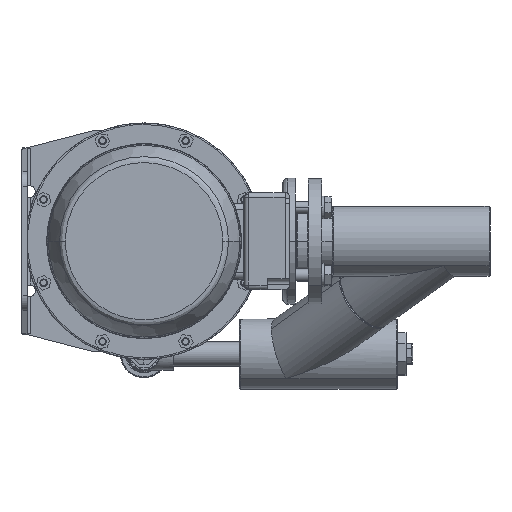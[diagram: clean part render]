
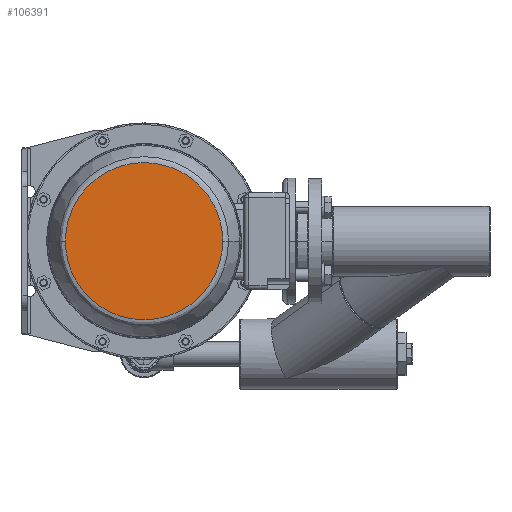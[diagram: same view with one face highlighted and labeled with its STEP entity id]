
A CAD part, front view. The second image highlights one B-rep face of the part: STEP entity #106391.
In plain terms, the highlighted planar face has unit normal (0, -1, 0).
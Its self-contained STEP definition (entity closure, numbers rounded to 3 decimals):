
#3239 = VERTEX_POINT ( 'NONE', #45671 ) ;
#3694 = VERTEX_POINT ( 'NONE', #45882 ) ;
#4487 = EDGE_CURVE ( 'NONE', #3694, #3239, #46259, .T. ) ;
#6788 = CARTESIAN_POINT ( 'NONE',  ( -6.478, -770.387, 173. ) ) ;
#6795 = PLANE ( 'NONE',  #6834 ) ;
#6833 = DIRECTION ( 'NONE',  ( 0., -1., 0. ) ) ;
#6834 = AXIS2_PLACEMENT_3D ( 'NONE', #6788, #6833, #6870 ) ;
#6838 = FACE_OUTER_BOUND ( 'NONE', #106320, .T. ) ;
#6870 = DIRECTION ( 'NONE',  ( 0., 0., -1. ) ) ;
#6877 = CARTESIAN_POINT ( 'NONE',  ( 96.541, -770.387, 173. ) ) ;
#6878 =( BOUNDED_CURVE ( )  B_SPLINE_CURVE ( 3, ( #6877, #6923, #6922, #6921 ),
 .UNSPECIFIED., .F., .T. ) 
 B_SPLINE_CURVE_WITH_KNOTS ( ( 4, 4 ),
 ( 0., 1. ),
 .UNSPECIFIED. ) 
 CURVE ( )  GEOMETRIC_REPRESENTATION_ITEM ( )  RATIONAL_B_SPLINE_CURVE ( ( 1., 0.333, 0.333, 1. ) ) 
 REPRESENTATION_ITEM ( '' )  );
#6921 = CARTESIAN_POINT ( 'NONE',  ( -109.498, -770.387, 173. ) ) ;
#6922 = CARTESIAN_POINT ( 'NONE',  ( -109.498, -770.387, -33.038 ) ) ;
#6923 = CARTESIAN_POINT ( 'NONE',  ( 96.541, -770.387, -33.038 ) ) ;
#45671 = CARTESIAN_POINT ( 'NONE',  ( 96.541, -770.387, 173. ) ) ;
#45882 = CARTESIAN_POINT ( 'NONE',  ( -109.498, -770.387, 173. ) ) ;
#46254 = CARTESIAN_POINT ( 'NONE',  ( 96.541, -770.387, 379.038 ) ) ;
#46255 = CARTESIAN_POINT ( 'NONE',  ( -109.498, -770.387, 379.038 ) ) ;
#46256 = CARTESIAN_POINT ( 'NONE',  ( -109.498, -770.387, 173. ) ) ;
#46259 =( BOUNDED_CURVE ( )  B_SPLINE_CURVE ( 3, ( #46256, #46255, #46254, #46301 ),
 .UNSPECIFIED., .F., .T. ) 
 B_SPLINE_CURVE_WITH_KNOTS ( ( 4, 4 ),
 ( 0., 1. ),
 .UNSPECIFIED. ) 
 CURVE ( )  GEOMETRIC_REPRESENTATION_ITEM ( )  RATIONAL_B_SPLINE_CURVE ( ( 1., 0.333, 0.333, 1. ) ) 
 REPRESENTATION_ITEM ( '' )  );
#46301 = CARTESIAN_POINT ( 'NONE',  ( 96.541, -770.387, 173. ) ) ;
#106320 = EDGE_LOOP ( 'NONE', ( #106401, #106429 ) ) ;
#106391 = ADVANCED_FACE ( 'NONE', ( #6838 ), #6795, .T. ) ;
#106401 = ORIENTED_EDGE ( 'NONE', *, *, #4487, .F. ) ;
#106414 = EDGE_CURVE ( 'NONE', #3239, #3694, #6878, .T. ) ;
#106429 = ORIENTED_EDGE ( 'NONE', *, *, #106414, .F. ) ;
